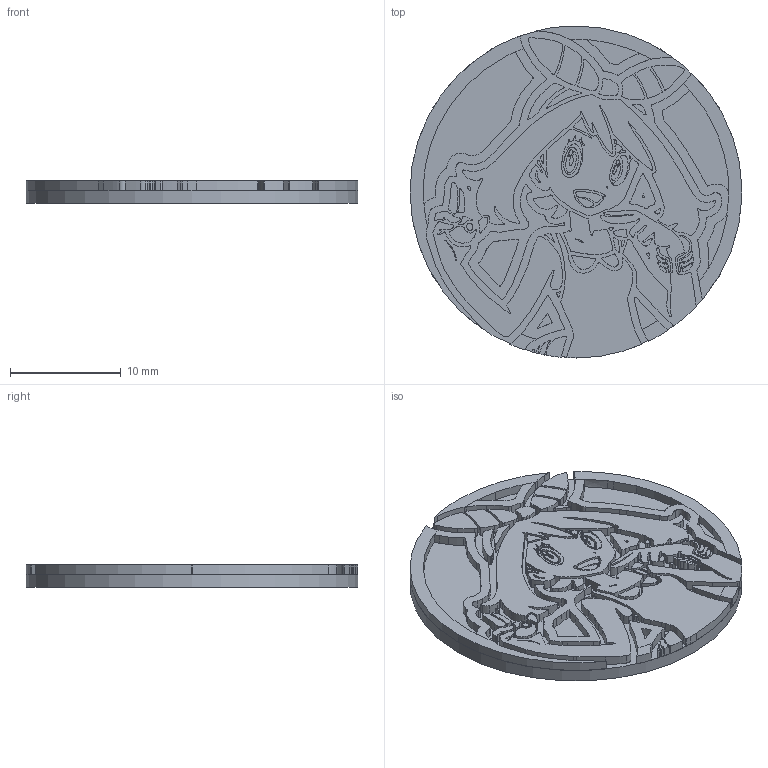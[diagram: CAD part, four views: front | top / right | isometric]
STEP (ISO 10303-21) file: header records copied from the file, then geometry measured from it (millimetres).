
FILE_DESCRIPTION(/* description */ (''),/* implementation_level */ '2;1');
FILE_NAME(/* name */ 'MaySTEP.step',/* time_stamp */ '2025-12-02T13:39:43+09:00',/* author */ (''),/* organization */ (''),/* preprocessor_version */ 'ST-DEVELOPER v20.1',/* originating_system */ 'Autodesk Translation Framework v14.21.0.0',/* authorisation */ '');
FILE_SCHEMA (('AUTOMOTIVE_DESIGN { 1 0 10303 214 3 1 1 }'));
Products named in the file (19): May; Skin; Hair; Shirt; Undershirt; RibbonRed; RibbonWhite; Tongue; MouthInside; Iris; eyewhites; Bracelet; PokeBallRed; PokeBallWhite; PackShadow; PackLight; PackBlack; MayBorder; OuterBorder
Assembly tree (18 placements, depth 2):
  May
    Skin
    Hair
    Shirt
    Undershirt
    RibbonRed
    RibbonWhite
    Tongue
    MouthInside
    Iris
    eyewhites
    Bracelet
    PokeBallRed
    PokeBallWhite
    PackShadow
    PackLight
    PackBlack
    MayBorder
    OuterBorder
Bounding box: 30 x 30 x 2 mm (x, y, z)
Volume: 1097.9 mm3; surface area: 3442.7 mm2
Topology: 71 solids, 71 shells, 1827 faces, 4971 edges, 3314 vertices
Faces by surface type: bspline 1514, plane 278, cylinder 35
Full cylindrical faces by diameter (mm): 30 x1
Entity records: 62231 total; most frequent: CARTESIAN_POINT 30451, ORIENTED_EDGE 9942, EDGE_CURVE 4971, VERTEX_POINT 3314, DIRECTION 2729, EDGE_LOOP 1875, LINE 1869, VECTOR 1869
